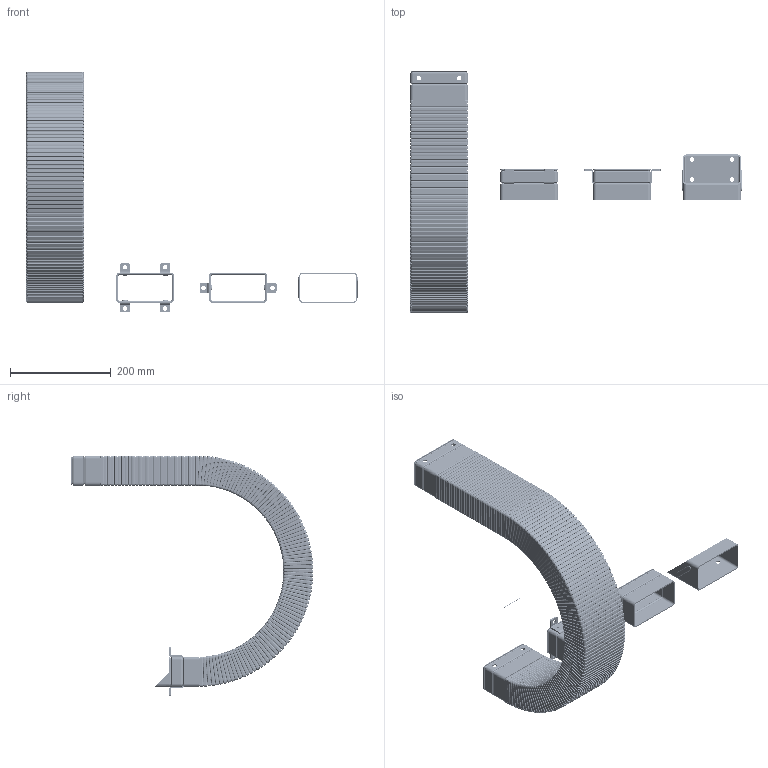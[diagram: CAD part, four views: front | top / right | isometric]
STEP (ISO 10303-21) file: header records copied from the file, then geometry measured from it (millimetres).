
FILE_DESCRIPTION((''),'2;1');
FILE_NAME('C:\Uebbing\PARAMETERKETTEN\SFK\SFK 32 N\SFK 32 N\SFK 32 N.stp','2012-04-12T13:01:37',('Uebbing'),(''),'Autodesk Inventor 10','Autodesk Inventor 10','');
FILE_SCHEMA(('AUTOMOTIVE_DESIGN { 1 0 10303 214 1 1 1 1 }'));
Length unit declared in the file: millimetre
Products named in the file (11): SFK 32 N STEP; Achse; SFK 32 N Normalanschluss; SFK 32 N Rippe; SFK 32 N Anschluss A; Rändelmutter M6 flach; Imbusschraube M6x5 Senkkopf; Anschlusswinkel; SFK 32 N Anschluss B; SFK 32 N Schrägflanschanschluss
Assembly tree (143 placements, depth 3):
  SFK 32 N STEP
    Achse
    SFK 32 N Normalanschluss  x2
    SFK 32 N Rippe  x117
    SFK 32 N Anschluss A
      SFK 32 N Normalanschluss
      Rändelmutter M6 flach  x4
      Imbusschraube M6x5 Senkkopf  x4
      Anschlusswinkel  x4
    SFK 32 N Anschluss B
      SFK 32 N Anschluss B
      Rändelmutter M6 flach  x2
      Imbusschraube M6x5 Senkkopf  x2
      Anschlusswinkel  x2
    SFK 32 N Schrägflanschanschluss
Bounding box: 660.24 x 482.65 x 479.08 mm (x, y, z)
Volume: 601775.6 mm3; surface area: 1260493.8 mm2
Topology: 141 solids, 141 shells, 14491 faces, 32024 edges, 18077 vertices
Faces by surface type: cylinder 6943, plane 3586, bspline 1972, torus 1966, cone 24
Full cylindrical faces by diameter (mm): 1 x1, 6 x12, 6.5 x6, 9 x24, 9.2 x6, 11 x6, 12 x6
Entity records: 17801 total; most frequent: CARTESIAN_POINT 4960, DIRECTION 2948, ORIENTED_EDGE 2268, AXIS2_PLACEMENT_3D 1207, EDGE_CURVE 1134, VERTEX_POINT 670, CIRCLE 592, EDGE_LOOP 592
